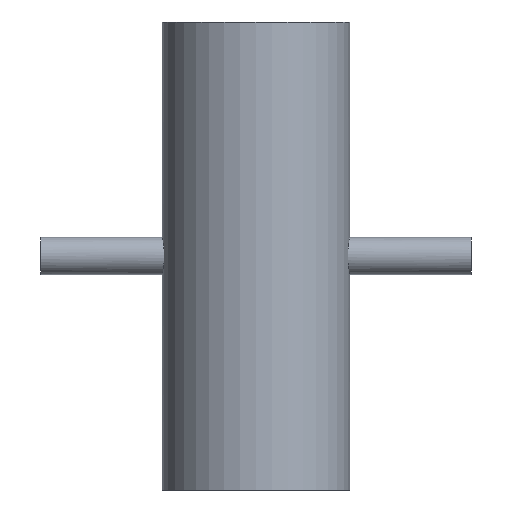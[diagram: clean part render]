
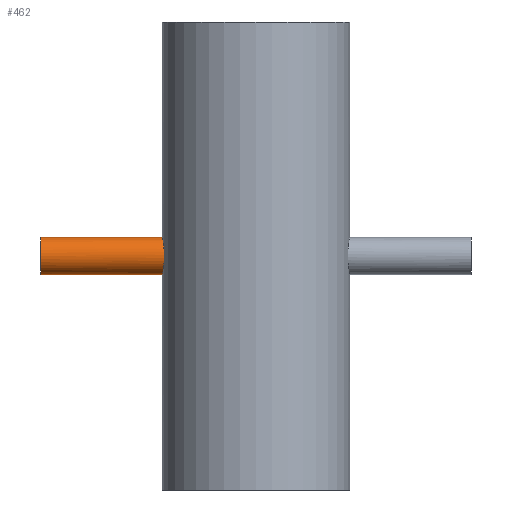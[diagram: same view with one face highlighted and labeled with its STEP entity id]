
A CAD part, front view. The second image highlights one B-rep face of the part: STEP entity #462.
In plain terms, the highlighted cylindrical face has radius 6.35 mm (diameter 12.7 mm), a partial arc.
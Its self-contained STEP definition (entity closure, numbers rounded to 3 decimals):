
#18 = DIRECTION ( 'NONE',  ( 0., 0., -1. ) ) ;
#32 = CARTESIAN_POINT ( 'NONE',  ( -31.75, 0., 6.35 ) ) ;
#36 = CARTESIAN_POINT ( 'NONE',  ( -31.75, -0.421, 6.35 ) ) ;
#37 = VERTEX_POINT ( 'NONE', #580 ) ;
#57 = CARTESIAN_POINT ( 'NONE',  ( -31.742, -0.834, 6.309 ) ) ;
#65 = CIRCLE ( 'NONE', #535, 6.35 ) ;
#72 = EDGE_LOOP ( 'NONE', ( #592, #573, #248, #584 ) ) ;
#91 = VERTEX_POINT ( 'NONE', #692 ) ;
#97 = CARTESIAN_POINT ( 'NONE',  ( -31.718, -1.444, 6.187 ) ) ;
#101 = CARTESIAN_POINT ( 'NONE',  ( -31.515, -3.873, 5.049 ) ) ;
#104 = CARTESIAN_POINT ( 'NONE',  ( -31.473, -4.198, 4.782 ) ) ;
#106 = CARTESIAN_POINT ( 'NONE',  ( -31.389, -4.782, 4.198 ) ) ;
#112 = CARTESIAN_POINT ( 'NONE',  ( -31.348, -5.045, 3.879 ) ) ;
#114 = CARTESIAN_POINT ( 'NONE',  ( -31.269, -5.509, 3.185 ) ) ;
#116 = CARTESIAN_POINT ( 'NONE',  ( -31.234, -5.706, 2.818 ) ) ;
#117 = CARTESIAN_POINT ( 'NONE',  ( -31.189, -5.943, 2.245 ) ) ;
#141 = CARTESIAN_POINT ( 'NONE',  ( -31.175, -6.014, 2.05 ) ) ;
#142 = AXIS2_PLACEMENT_3D ( 'NONE', #311, #230, #247 ) ;
#153 = CARTESIAN_POINT ( 'NONE',  ( -31.152, -6.135, 1.652 ) ) ;
#155 = B_SPLINE_CURVE_WITH_KNOTS ( 'NONE', 3,
 ( #32, #36, #57, #97, #383, #368, #321, #296, #253, #101, #104, #106, #112, #114, #116, #117, #141, #153, #159, #162, #167, #173, #178, #180, #182, #210, #214, #219, #222, #226, #232, #237, #240, #246, #249, #255, #258, #278, #283, #287, #288, #299 ),
 .UNSPECIFIED., .F., .F.,
 ( 4, 2, 2, 2, 2, 2, 2, 2, 2, 2, 2, 2, 2, 2, 2, 2, 2, 2, 2, 2, 4 ),
 ( 0., 0.001, 0.002, 0.002, 0.004, 0.005, 0.006, 0.007, 0.008, 0.009, 0.01, 0.011, 0.012, 0.013, 0.014, 0.015, 0.016, 0.017, 0.017, 0.019, 0.02 ),
 .UNSPECIFIED. ) ;
#159 = CARTESIAN_POINT ( 'NONE',  ( -31.142, -6.186, 1.448 ) ) ;
#162 = CARTESIAN_POINT ( 'NONE',  ( -31.117, -6.309, 0.833 ) ) ;
#167 = CARTESIAN_POINT ( 'NONE',  ( -31.109, -6.35, 0.42 ) ) ;
#173 = CARTESIAN_POINT ( 'NONE',  ( -31.108, -6.35, -0.41 ) ) ;
#178 = CARTESIAN_POINT ( 'NONE',  ( -31.117, -6.309, -0.832 ) ) ;
#180 = CARTESIAN_POINT ( 'NONE',  ( -31.149, -6.147, -1.647 ) ) ;
#182 = CARTESIAN_POINT ( 'NONE',  ( -31.173, -6.027, -2.043 ) ) ;
#189 = EDGE_CURVE ( 'NONE', #605, #37, #65, .T. ) ;
#210 = CARTESIAN_POINT ( 'NONE',  ( -31.218, -5.788, -2.621 ) ) ;
#214 = CARTESIAN_POINT ( 'NONE',  ( -31.235, -5.698, -2.811 ) ) ;
#219 = CARTESIAN_POINT ( 'NONE',  ( -31.27, -5.502, -3.178 ) ) ;
#222 = CARTESIAN_POINT ( 'NONE',  ( -31.288, -5.395, -3.355 ) ) ;
#224 = EDGE_CURVE ( 'NONE', #91, #478, #155, .T. ) ;
#226 = CARTESIAN_POINT ( 'NONE',  ( -31.347, -5.051, -3.87 ) ) ;
#230 = DIRECTION ( 'NONE',  ( 1., 0., 0. ) ) ;
#232 = CARTESIAN_POINT ( 'NONE',  ( -31.388, -4.788, -4.192 ) ) ;
#237 = CARTESIAN_POINT ( 'NONE',  ( -31.473, -4.198, -4.783 ) ) ;
#240 = CARTESIAN_POINT ( 'NONE',  ( -31.514, -3.878, -5.045 ) ) ;
#246 = CARTESIAN_POINT ( 'NONE',  ( -31.572, -3.364, -5.39 ) ) ;
#247 = DIRECTION ( 'NONE',  ( 0., 0., -1. ) ) ;
#248 = ORIENTED_EDGE ( 'NONE', *, *, #538, .T. ) ;
#249 = CARTESIAN_POINT ( 'NONE',  ( -31.59, -3.186, -5.497 ) ) ;
#253 = CARTESIAN_POINT ( 'NONE',  ( -31.592, -3.183, 5.51 ) ) ;
#255 = CARTESIAN_POINT ( 'NONE',  ( -31.625, -2.818, -5.694 ) ) ;
#258 = CARTESIAN_POINT ( 'NONE',  ( -31.642, -2.629, -5.784 ) ) ;
#278 = CARTESIAN_POINT ( 'NONE',  ( -31.686, -2.053, -6.023 ) ) ;
#283 = CARTESIAN_POINT ( 'NONE',  ( -31.709, -1.657, -6.144 ) ) ;
#287 = CARTESIAN_POINT ( 'NONE',  ( -31.741, -0.842, -6.308 ) ) ;
#288 = CARTESIAN_POINT ( 'NONE',  ( -31.75, -0.421, -6.35 ) ) ;
#296 = CARTESIAN_POINT ( 'NONE',  ( -31.627, -2.819, 5.705 ) ) ;
#299 = CARTESIAN_POINT ( 'NONE',  ( -31.75, 0., -6.35 ) ) ;
#311 = CARTESIAN_POINT ( 'NONE',  ( -73.025, 0., 0. ) ) ;
#321 = CARTESIAN_POINT ( 'NONE',  ( -31.671, -2.243, 5.944 ) ) ;
#359 = DIRECTION ( 'NONE',  ( 1., 0., 0. ) ) ;
#365 = CARTESIAN_POINT ( 'NONE',  ( -73.025, 0., -6.35 ) ) ;
#368 = CARTESIAN_POINT ( 'NONE',  ( -31.685, -2.045, 6.015 ) ) ;
#383 = CARTESIAN_POINT ( 'NONE',  ( -31.708, -1.645, 6.137 ) ) ;
#421 = CARTESIAN_POINT ( 'NONE',  ( -73.025, 0., 6.35 ) ) ;
#462 = ADVANCED_FACE ( 'NONE', ( #493 ), #793, .T. ) ;
#474 = LINE ( 'NONE', #421, #639 ) ;
#478 = VERTEX_POINT ( 'NONE', #610 ) ;
#482 = CARTESIAN_POINT ( 'NONE',  ( -73.025, 0., 6.35 ) ) ;
#493 = FACE_OUTER_BOUND ( 'NONE', #72, .T. ) ;
#535 = AXIS2_PLACEMENT_3D ( 'NONE', #699, #758, #18 ) ;
#538 = EDGE_CURVE ( 'NONE', #37, #478, #554, .T. ) ;
#554 = LINE ( 'NONE', #365, #662 ) ;
#573 = ORIENTED_EDGE ( 'NONE', *, *, #189, .T. ) ;
#580 = CARTESIAN_POINT ( 'NONE',  ( -73.025, 0., -6.35 ) ) ;
#584 = ORIENTED_EDGE ( 'NONE', *, *, #224, .F. ) ;
#591 = EDGE_CURVE ( 'NONE', #605, #91, #474, .T. ) ;
#592 = ORIENTED_EDGE ( 'NONE', *, *, #591, .F. ) ;
#605 = VERTEX_POINT ( 'NONE', #482 ) ;
#610 = CARTESIAN_POINT ( 'NONE',  ( -31.75, 0., -6.35 ) ) ;
#639 = VECTOR ( 'NONE', #753, 1000. ) ;
#662 = VECTOR ( 'NONE', #359, 1000. ) ;
#692 = CARTESIAN_POINT ( 'NONE',  ( -31.75, 0., 6.35 ) ) ;
#699 = CARTESIAN_POINT ( 'NONE',  ( -73.025, 0., 0. ) ) ;
#753 = DIRECTION ( 'NONE',  ( 1., 0., 0. ) ) ;
#758 = DIRECTION ( 'NONE',  ( 1., 0., 0. ) ) ;
#793 = CYLINDRICAL_SURFACE ( 'NONE', #142, 6.35 ) ;
